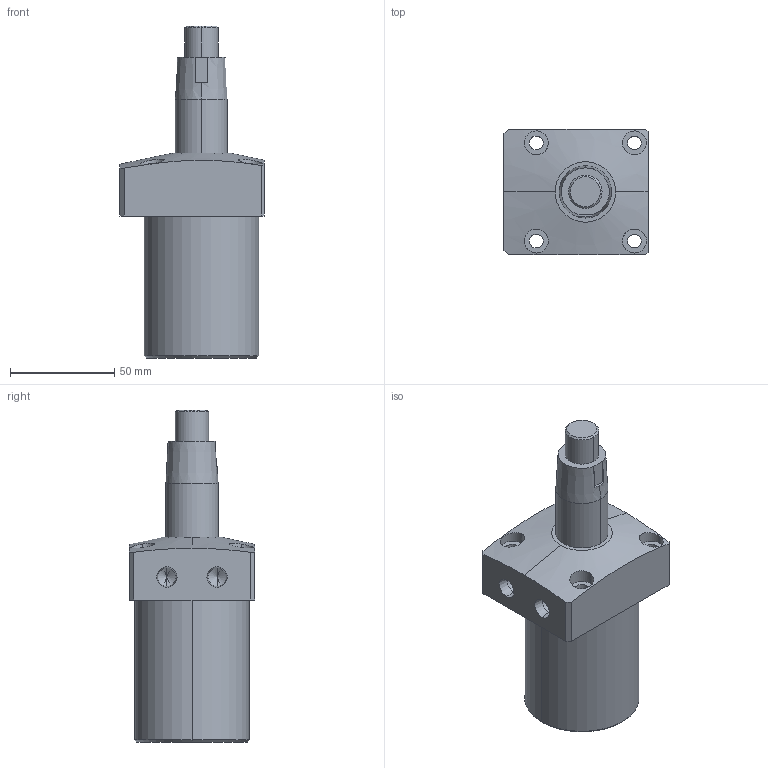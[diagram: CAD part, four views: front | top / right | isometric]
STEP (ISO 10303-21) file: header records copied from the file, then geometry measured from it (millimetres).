
FILE_DESCRIPTION (( 'STEP AP214' ), '1' );
FILE_NAME ('SC02-55-R-TOP-TAPER.STEP', '2021-08-22T07:56:24', ( '' ), ( '' ), 'SwSTEP 2.0', 'SolidWorks 2019', '' );
FILE_SCHEMA (( 'AUTOMOTIVE_DESIGN' ));
Length unit declared in the file: millimetre
Products named in the file (3): 55-BOD-TOP; 55-TAPER-PISTON; SC02-55-R-TOP-TAPER
Assembly tree (2 placements, depth 2):
  SC02-55-R-TOP-TAPER
    55-BOD-TOP
    55-TAPER-PISTON
Bounding box: 69 x 60 x 159 mm (x, y, z)
Volume: 272508.7 mm3; surface area: 44552.6 mm2
Topology: 2 solids, 2 shells, 73 faces, 166 edges, 104 vertices
Faces by surface type: cylinder 32, plane 25, cone 16
Entity records: 2530 total; most frequent: CARTESIAN_POINT 758, DIRECTION 368, ORIENTED_EDGE 324, EDGE_CURVE 162, AXIS2_PLACEMENT_3D 148, VERTEX_POINT 104, EDGE_LOOP 92, ADVANCED_FACE 73
